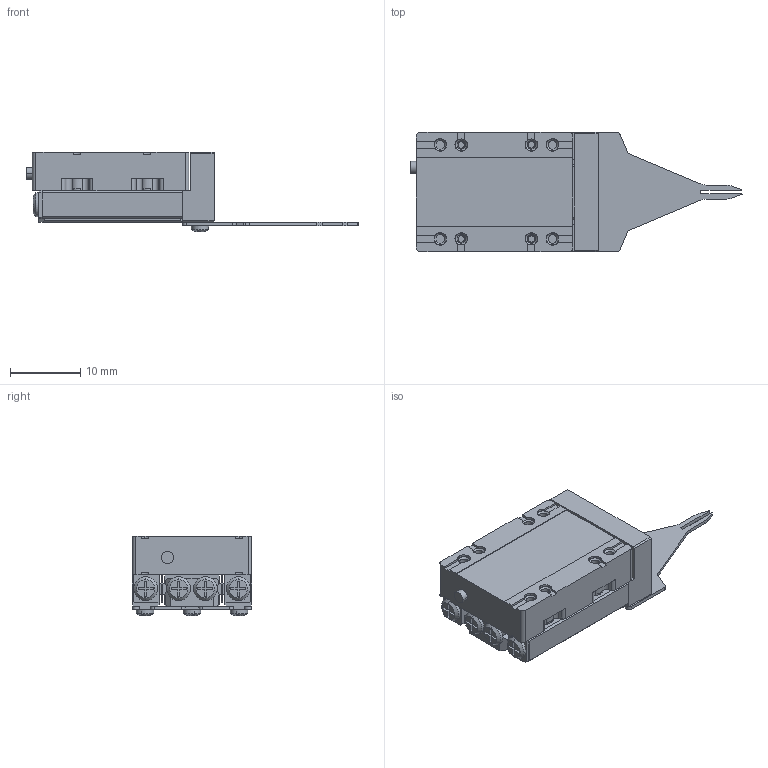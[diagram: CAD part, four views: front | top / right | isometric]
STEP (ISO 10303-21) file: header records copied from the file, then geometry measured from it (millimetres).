
FILE_DESCRIPTION (( 'STEP AP214' ), '1' );
FILE_NAME ('YGPU-P02.STEP', '2026-06-11T03:48:04', ( '' ), ( '' ), 'SwSTEP 2.0', 'SolidWorks 2022', '' );
FILE_SCHEMA (( 'AUTOMOTIVE_DESIGN' ));
Length unit declared in the file: millimetre
Products named in the file (1): YGPU-P02
Bounding box: 47.3 x 17 x 11.38 mm (x, y, z)
Volume: 3866.5 mm3; surface area: 4823.5 mm2
Topology: 26 solids, 26 shells, 873 faces, 2114 edges, 1311 vertices
Faces by surface type: plane 472, cylinder 213, cone 144, torus 22, sphere 22
Entity records: 35396 total; most frequent: DIRECTION 4636, CARTESIAN_POINT 4475, ORIENTED_EDGE 4212, EDGE_CURVE 2106, AXIS2_PLACEMENT_3D 1680, VERTEX_POINT 1307, VECTOR 1276, LINE 1276
